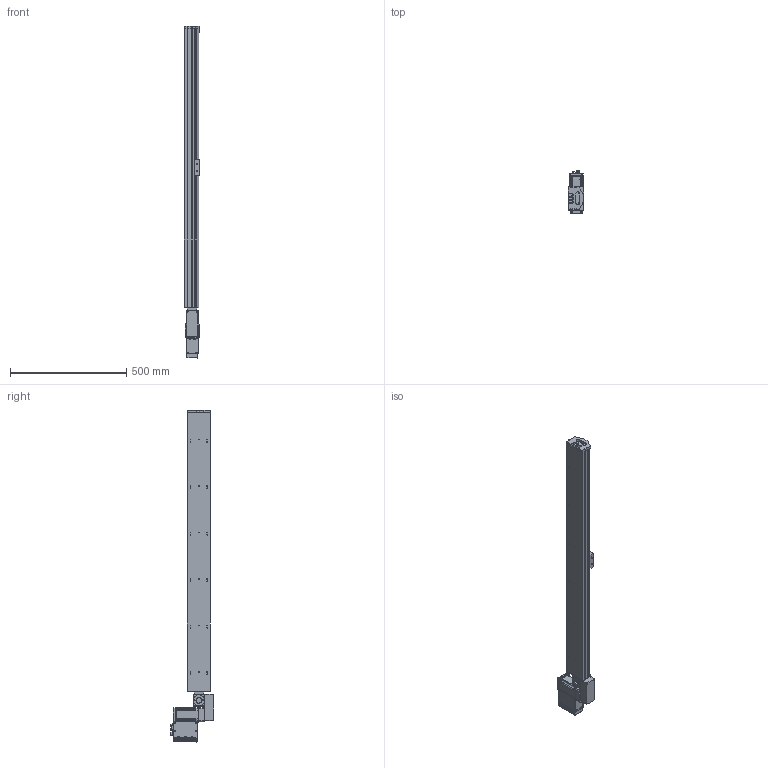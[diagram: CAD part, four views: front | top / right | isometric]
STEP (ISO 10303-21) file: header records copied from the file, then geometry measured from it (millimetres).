
FILE_DESCRIPTION (( 'STEP AP214' ), '1' );
FILE_NAME ('S10 TBN LH S1200.STEP', '2012-12-07T12:42:02', ( 'Conseil Régional Haute-Normandie' ), ( 'Conseil Régional Haute-Normandie' ), 'SwSTEP 2.0', 'SolidWorks 2010', '' );
FILE_SCHEMA (( 'AUTOMOTIVE_DESIGN' ));
Length unit declared in the file: millimetre
Products named in the file (26): T_X2_00F4_X0_le lat_X2_00E9_X0_rale_5; T_X2_00F4_X0_le Arri_X2_00E8_X0_re_5; Vis TF 3 torkx_1_1; axe 1200; axe 1200_Default; renvoi LH_Default; Plaque racord_Default; plaque de bout s10_Default; palette tbn; embout; cache t皻e_Default; cache t皻e axe_Default; S10 TBN LH S1200; Assem1_7; Colonnette_3; BU41 Carte Alimentation P05_3; T_X2_00F4_X0_le contre le moteur_5; Couvercle_3; Moteur 60BLDC90A_3; BU45 Carte d''axe A11_5; Connecteur rond D12 4cts_5; Connecteur rond D10 3cts_5; T_X2_00F4_X0_le fond_3; Colonnette ronde_3; Radiateur profil_X2_00E9_X0_ 100x25_3; Sub D 9cts 90_X2_00B_X0__3
Assembly tree (48 placements, depth 3):
  S10 TBN LH S1200
    Assem1_7
      Vis TF 3 torkx_1_1  x21
      Connecteur rond D10 3cts_5  x2
      T_X2_00F4_X0_le lat_X2_00E9_X0_rale_5  x2
      BU45 Carte d''axe A11_5
      BU41 Carte Alimentation P05_3
      T_X2_00F4_X0_le Arri_X2_00E8_X0_re_5
      Couvercle_3
      Colonnette_3  x2
      Connecteur rond D12 4cts_5
      T_X2_00F4_X0_le fond_3
      T_X2_00F4_X0_le contre le moteur_5
      Radiateur profil_X2_00E9_X0_ 100x25_3
      Sub D 9cts 90_X2_00B_X0__3
      Moteur 60BLDC90A_3
      Colonnette ronde_3
    axe 1200_Default
      axe 1200
    renvoi LH_Default
    cache t皻e axe_Default
    plaque de bout s10_Default
    Plaque racord_Default
    embout
    cache t皻e_Default
    palette tbn
Bounding box: 66.75 x 186.1 x 1428.5 mm (x, y, z)
Volume: 7057859.7 mm3; surface area: 880462.1 mm2
Topology: 46 solids, 46 shells, 1929 faces, 4925 edges, 3210 vertices
Faces by surface type: cylinder 904, plane 864, cone 146, bspline 12, torus 3
Entity records: 52388 total; most frequent: CARTESIAN_POINT 7923, DIRECTION 7108, ORIENTED_EDGE 6482, EDGE_CURVE 3241, AXIS2_PLACEMENT_3D 2646, VERTEX_POINT 2126, LINE 1816, VECTOR 1816
